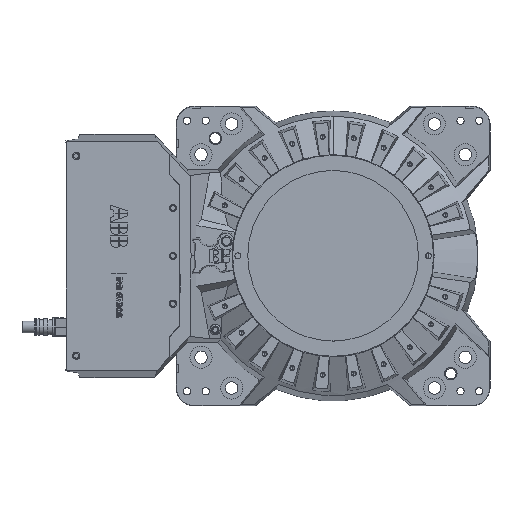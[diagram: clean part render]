
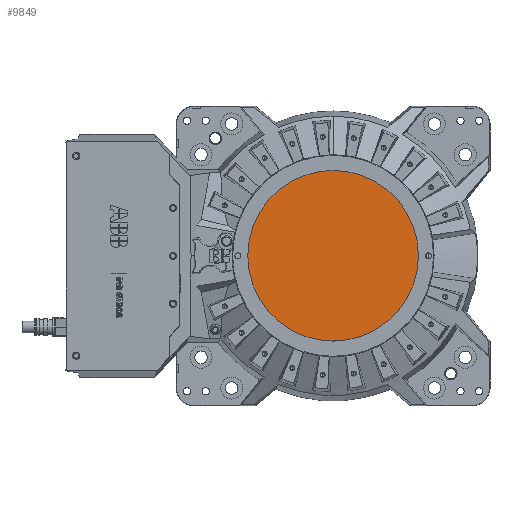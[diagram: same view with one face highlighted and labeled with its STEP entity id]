
A CAD part, top view. The second image highlights one B-rep face of the part: STEP entity #9849.
In plain terms, the highlighted planar face has unit normal (0, 0, 1).
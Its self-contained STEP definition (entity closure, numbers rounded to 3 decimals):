
#37 = CIRCLE ( 'NONE', #48887, 205. ) ;
#686 = VERTEX_POINT ( 'NONE', #51709 ) ;
#1357 = CIRCLE ( 'NONE', #44041, 205. ) ;
#2032 = EDGE_CURVE ( 'NONE', #20818, #686, #37, .T. ) ;
#3609 = DIRECTION ( 'NONE',  ( 0., 0., 1. ) ) ;
#9526 = ORIENTED_EDGE ( 'NONE', *, *, #22922, .T. ) ;
#9849 = ADVANCED_FACE ( 'NONE', ( #13944 ), #54913, .T. ) ;
#11374 = DIRECTION ( 'NONE',  ( 1., 0., 0. ) ) ;
#13944 = FACE_OUTER_BOUND ( 'NONE', #52895, .T. ) ;
#17164 = CARTESIAN_POINT ( 'NONE',  ( 0., 0., 359.4 ) ) ;
#20818 = VERTEX_POINT ( 'NONE', #73367 ) ;
#21984 = CARTESIAN_POINT ( 'NONE',  ( 0., 0., 359.4 ) ) ;
#22922 = EDGE_CURVE ( 'NONE', #686, #20818, #1357, .T. ) ;
#25505 = CARTESIAN_POINT ( 'NONE',  ( 0., 0., 359.4 ) ) ;
#33082 = DIRECTION ( 'NONE',  ( 1., 0., 0. ) ) ;
#38713 = ORIENTED_EDGE ( 'NONE', *, *, #2032, .T. ) ;
#40428 = DIRECTION ( 'NONE',  ( 0., 0., 1. ) ) ;
#44041 = AXIS2_PLACEMENT_3D ( 'NONE', #25505, #61100, #48783 ) ;
#48783 = DIRECTION ( 'NONE',  ( 1., 0., 0. ) ) ;
#48887 = AXIS2_PLACEMENT_3D ( 'NONE', #17164, #40428, #11374 ) ;
#51709 = CARTESIAN_POINT ( 'NONE',  ( -205., 0., 359.4 ) ) ;
#52895 = EDGE_LOOP ( 'NONE', ( #9526, #38713 ) ) ;
#54913 = PLANE ( 'NONE',  #72151 ) ;
#61100 = DIRECTION ( 'NONE',  ( 0., 0., 1. ) ) ;
#72151 = AXIS2_PLACEMENT_3D ( 'NONE', #21984, #3609, #33082 ) ;
#73367 = CARTESIAN_POINT ( 'NONE',  ( 205., 0., 359.4 ) ) ;
